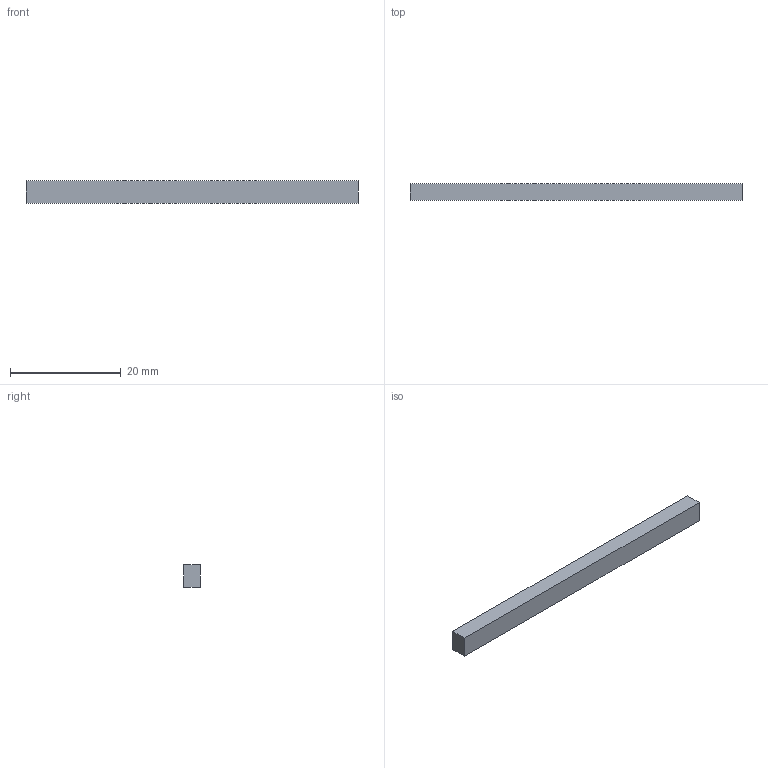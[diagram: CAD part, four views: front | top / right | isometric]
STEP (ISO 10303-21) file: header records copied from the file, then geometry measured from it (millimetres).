
FILE_DESCRIPTION(('Open CASCADE Model'),'2;1');
FILE_NAME('Open CASCADE Shape Model','2026-08-07T13:51:23',('Author'),( 'Open CASCADE'),'Open CASCADE STEP processor 7.9','Open CASCADE 7.9' ,'Unknown');
FILE_SCHEMA(('AUTOMOTIVE_DESIGN { 1 0 10303 214 1 1 1 1 }'));
Length unit declared in the file: millimetre
Products named in the file (1): 罩內LED側光(外購)
Bounding box: 60 x 3 x 4 mm (x, y, z)
Volume: 720 mm3; surface area: 864 mm2
Topology: 1 solids, 1 shells, 6 faces, 12 edges, 8 vertices
Faces by surface type: plane 6
Entity records: 322 total; most frequent: CARTESIAN_POINT 51, DIRECTION 50, LINE 36, VECTOR 36, ORIENTED_EDGE 24, PCURVE 24, DEFINITIONAL_REPRESENTATION 24, EDGE_CURVE 12
